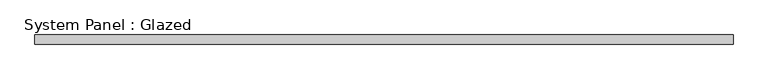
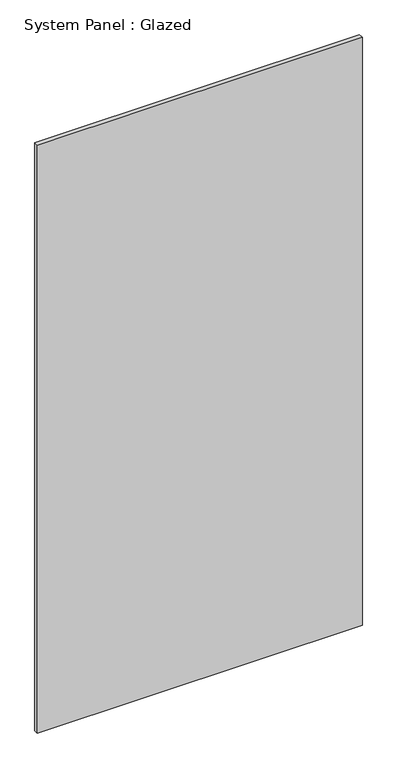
"""IFC4 building model written with IfcOpenShell, lengths in millimetres: plate geometry, System Panel : Glazed."""

from ifc_helpers import new_model, si_unit, origin, origin_with_axes, place, context, project, spatial, polyline, outline, extrude, source, transform, mapped, element, save


def system_panel_glazed_80cdc29d(model_context):
    return source(origin(), model_context, "Body", "SweptSolid", [
        extrude(outline(polyline([(915.0000002, 24.5), (-915.0000002, 24.5), (-915.0000002, 49.5), (915.0000002, 49.5), (915.0000002, 24.5)])), origin_with_axes(), (0.0, 0.0, 1.0), 3500.0),
    ])


if __name__ == "__main__":
    model = new_model("IFC4")
    model_context = context("Model", 3, world=origin())
    ifc_project = project(units=[si_unit("LENGTHUNIT", "METRE", prefix="MILLI")], contexts=[model_context])
    site = spatial("IfcSite", under=ifc_project)
    building = spatial("IfcBuilding", under=site)
    placement = place(None, origin())
    system_panel_glazed_shape = system_panel_glazed_80cdc29d(model_context)
    element("IfcPlate", 1, ObjectType="System Panel : Glazed", at=placement, inside=building, context=model_context, shape_type="MappedRepresentation", body=[
        mapped(system_panel_glazed_shape, transform((0.0, 0.0, 0.0), x_axis=(1.0, 0.0, 0.0), y_axis=(0.0, 1.0, 0.0), z_axis=(0.0, 0.0, 1.0))),
    ])
    save(model, "model.ifc")
